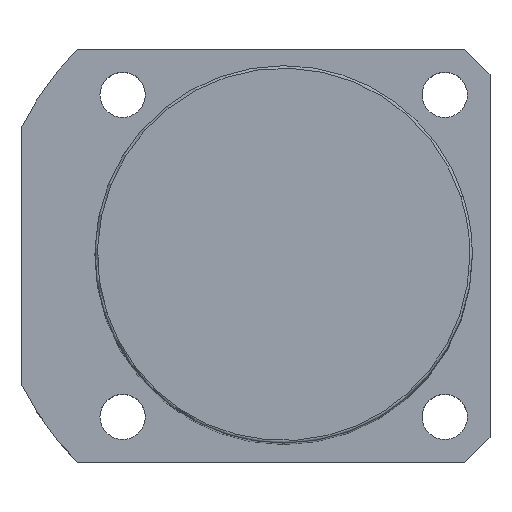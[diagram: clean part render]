
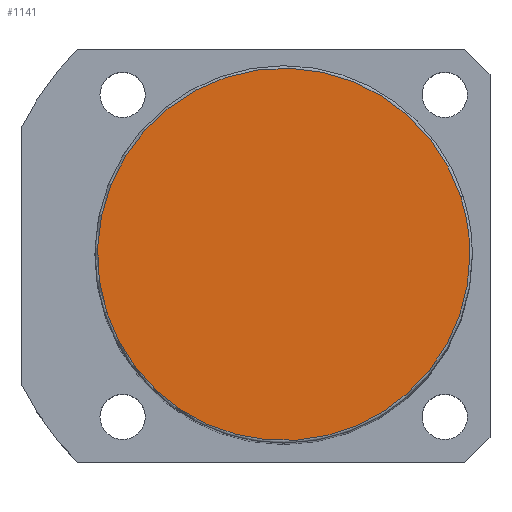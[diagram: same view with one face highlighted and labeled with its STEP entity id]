
A CAD part, top view. The second image highlights one B-rep face of the part: STEP entity #1141.
In plain terms, the highlighted planar face has unit normal (0, 0, 1).
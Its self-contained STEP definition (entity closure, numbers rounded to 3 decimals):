
#1107=CARTESIAN_POINT('',(37.0,0.0,183.0));
#1108=VERTEX_POINT('',#1107);
#1109=CARTESIAN_POINT('',(35.189,11.434,183.0));
#1110=VERTEX_POINT('',#1109);
#1111=CARTESIAN_POINT('',(0.0,0.0,183.0));
#1112=DIRECTION('',(0.0,0.0,1.0));
#1113=DIRECTION('',(1.0,0.0,0.0));
#1114=AXIS2_PLACEMENT_3D('',#1111,#1112,#1113);
#1115=CIRCLE('',#1114,37.0);
#1116=EDGE_CURVE('no 1710',#1108,#1110,#1115,.T.);
#1117=ORIENTED_EDGE('',*,*,#1116,.T.);
#1118=CARTESIAN_POINT('',(-35.189,-11.434,183.0));
#1119=VERTEX_POINT('',#1118);
#1120=CARTESIAN_POINT('',(0.0,0.0,183.0));
#1121=DIRECTION('',(0.0,0.0,1.0));
#1122=DIRECTION('',(1.0,0.0,0.0));
#1123=AXIS2_PLACEMENT_3D('',#1120,#1121,#1122);
#1124=CIRCLE('',#1123,37.0);
#1125=EDGE_CURVE('no 1716',#1110,#1119,#1124,.T.);
#1126=ORIENTED_EDGE('',*,*,#1125,.T.);
#1127=CARTESIAN_POINT('',(0.0,0.0,183.0));
#1128=DIRECTION('',(0.0,0.0,1.0));
#1129=DIRECTION('',(1.0,0.0,0.0));
#1130=AXIS2_PLACEMENT_3D('',#1127,#1128,#1129);
#1131=CIRCLE('',#1130,37.0);
#1132=EDGE_CURVE('no 1720',#1119,#1108,#1131,.T.);
#1133=ORIENTED_EDGE('',*,*,#1132,.T.);
#1134=EDGE_LOOP('',(#1117,#1126,#1133));
#1135=FACE_OUTER_BOUND('',#1134,.T.);
#1136=CARTESIAN_POINT('',(0.0,0.0,183.0));
#1137=DIRECTION('',(0.0,0.0,1.0));
#1138=DIRECTION('',(1.0,0.0,0.0));
#1139=AXIS2_PLACEMENT_3D('',#1136,#1137,#1138);
#1140=PLANE('',#1139);
#1141=ADVANCED_FACE('no 1701',(#1135),#1140,.T.);
